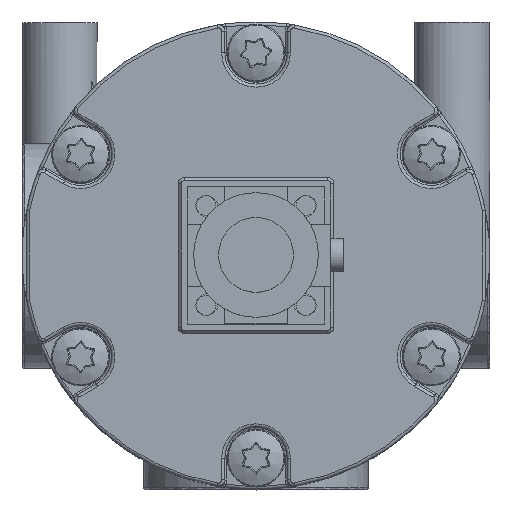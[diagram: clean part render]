
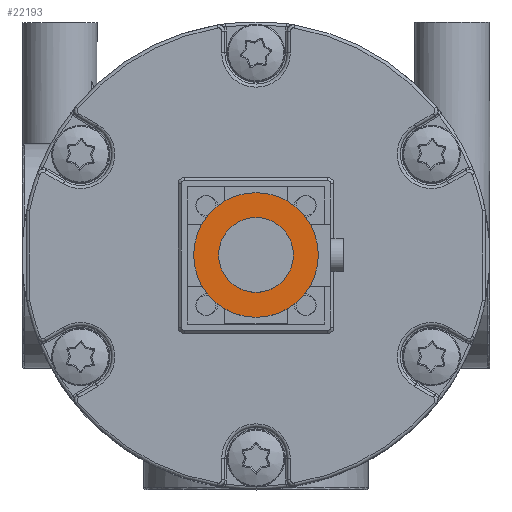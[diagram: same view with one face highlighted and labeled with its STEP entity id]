
A CAD part, top view. The second image highlights one B-rep face of the part: STEP entity #22193.
In plain terms, the highlighted planar face has unit normal (0, 0, 1).
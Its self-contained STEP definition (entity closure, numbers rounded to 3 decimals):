
#1110=FACE_BOUND('',#3130,.T.);
#1208=PLANE('',#23917);
#1710=FACE_OUTER_BOUND('',#3129,.T.);
#3129=EDGE_LOOP('',(#14310,#14311));
#3130=EDGE_LOOP('',(#14312,#14313));
#6829=CIRCLE('',#23915,10.);
#6830=CIRCLE('',#23916,10.);
#6831=CIRCLE('',#23918,6.);
#6832=CIRCLE('',#23919,6.);
#8563=VERTEX_POINT('',#35938);
#8564=VERTEX_POINT('',#35939);
#8565=VERTEX_POINT('',#35944);
#8566=VERTEX_POINT('',#35945);
#10722=EDGE_CURVE('',#8563,#8564,#6829,.T.);
#10723=EDGE_CURVE('',#8564,#8563,#6830,.T.);
#10725=EDGE_CURVE('',#8565,#8566,#6831,.T.);
#10726=EDGE_CURVE('',#8566,#8565,#6832,.T.);
#14310=ORIENTED_EDGE('',*,*,#10722,.T.);
#14311=ORIENTED_EDGE('',*,*,#10723,.T.);
#14312=ORIENTED_EDGE('',*,*,#10725,.F.);
#14313=ORIENTED_EDGE('',*,*,#10726,.F.);
#22193=ADVANCED_FACE('',(#1710,#1110),#1208,.T.);
#23915=AXIS2_PLACEMENT_3D('',#35940,#27442,#27443);
#23916=AXIS2_PLACEMENT_3D('',#35941,#27444,#27445);
#23917=AXIS2_PLACEMENT_3D('',#35943,#27447,#27448);
#23918=AXIS2_PLACEMENT_3D('',#35946,#27449,#27450);
#23919=AXIS2_PLACEMENT_3D('',#35947,#27451,#27452);
#27442=DIRECTION('center_axis',(0.,0.,
1.));
#27443=DIRECTION('ref_axis',(0.,1.,0.));
#27444=DIRECTION('center_axis',(0.,0.,
1.));
#27445=DIRECTION('ref_axis',(0.,1.,0.));
#27447=DIRECTION('center_axis',(0.,0.,
1.));
#27448=DIRECTION('ref_axis',(0.,1.,0.));
#27449=DIRECTION('center_axis',(0.,0.,
1.));
#27450=DIRECTION('ref_axis',(0.,1.,0.));
#27451=DIRECTION('center_axis',(0.,0.,
1.));
#27452=DIRECTION('ref_axis',(0.,1.,0.));
#35938=CARTESIAN_POINT('',(0.,10.,106.8));
#35939=CARTESIAN_POINT('',(0.,-10.,106.8));
#35940=CARTESIAN_POINT('Origin',(0.,0.,
106.8));
#35941=CARTESIAN_POINT('Origin',(0.,0.,
106.8));
#35943=CARTESIAN_POINT('Origin',(0.,8.,
106.8));
#35944=CARTESIAN_POINT('',(0.,6.,106.8));
#35945=CARTESIAN_POINT('',(0.,-6.,106.8));
#35946=CARTESIAN_POINT('Origin',(0.,0.,
106.8));
#35947=CARTESIAN_POINT('Origin',(0.,0.,
106.8));
